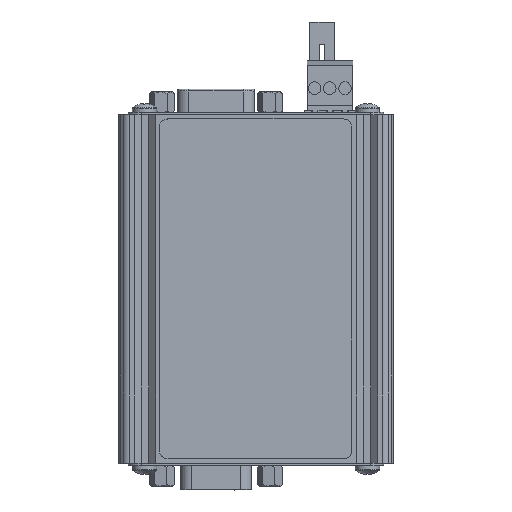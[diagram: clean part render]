
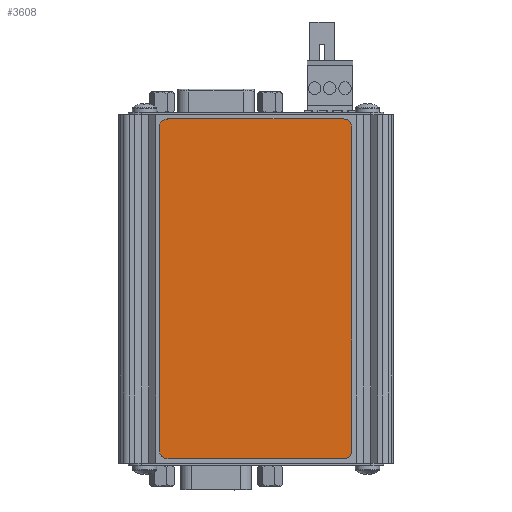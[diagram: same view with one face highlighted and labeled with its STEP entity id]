
A CAD part, top view. The second image highlights one B-rep face of the part: STEP entity #3608.
In plain terms, the highlighted planar face has unit normal (0, 0, 1).
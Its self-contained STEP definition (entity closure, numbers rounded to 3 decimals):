
#464=B_SPLINE_CURVE_WITH_KNOTS('',3,(#59544,#59545,#59546,#59547,#59548,
#59549,#59550,#59551,#59552,#59553,#59554,#59555,#59556,#59557,#59558,#59559,
#59560,#59561,#59562,#59563,#59564,#59565,#59566,#59567,#59568),
 .UNSPECIFIED.,.T.,.F.,(1,3,3,3,3,3,3,3,3,3,1),(-0.125,0.,0.125,0.25,0.375,
0.5,0.625,0.75,0.875,1.,1.125),.UNSPECIFIED.);
#3608=ADVANCED_FACE('',(#7108),#5626,.F.);
#5626=PLANE('',#41749);
#7108=FACE_OUTER_BOUND('',#9273,.T.);
#9273=EDGE_LOOP('',(#13028));
#13028=ORIENTED_EDGE('',*,*,#27821,.T.);
#23654=VERTEX_POINT('',#59569);
#27821=EDGE_CURVE('',#23654,#23654,#464,.T.);
#41749=AXIS2_PLACEMENT_3D('',#59596,#46496,#46497);
#46496=DIRECTION('',(0.,0.,-1.));
#46497=DIRECTION('',(0.,1.,0.));
#59544=CARTESIAN_POINT('',(53.9,77.5,30.175));
#59545=CARTESIAN_POINT('',(53.9,78.605,30.175));
#59546=CARTESIAN_POINT('',(53.005,79.5,30.175));
#59547=CARTESIAN_POINT('',(51.9,79.5,30.175));
#59548=CARTESIAN_POINT('',(51.9,79.5,30.175));
#59549=CARTESIAN_POINT('',(11.4,79.5,30.175));
#59550=CARTESIAN_POINT('',(11.4,79.5,30.175));
#59551=CARTESIAN_POINT('',(10.295,79.5,30.175));
#59552=CARTESIAN_POINT('',(9.4,78.605,30.175));
#59553=CARTESIAN_POINT('',(9.4,77.5,30.175));
#59554=CARTESIAN_POINT('',(9.4,77.5,30.175));
#59555=CARTESIAN_POINT('',(9.4,3.,30.175));
#59556=CARTESIAN_POINT('',(9.4,3.,30.175));
#59557=CARTESIAN_POINT('',(9.4,1.895,30.175));
#59558=CARTESIAN_POINT('',(10.295,1.,30.175));
#59559=CARTESIAN_POINT('',(11.4,1.,30.175));
#59560=CARTESIAN_POINT('',(11.4,1.,30.175));
#59561=CARTESIAN_POINT('',(51.9,1.,30.175));
#59562=CARTESIAN_POINT('',(51.9,1.,30.175));
#59563=CARTESIAN_POINT('',(53.005,1.,30.175));
#59564=CARTESIAN_POINT('',(53.9,1.895,30.175));
#59565=CARTESIAN_POINT('',(53.9,3.,30.175));
#59566=CARTESIAN_POINT('',(53.9,3.,30.175));
#59567=CARTESIAN_POINT('',(53.9,77.5,30.175));
#59568=CARTESIAN_POINT('',(53.9,77.5,30.175));
#59569=CARTESIAN_POINT('',(53.9,77.5,30.175));
#59596=CARTESIAN_POINT('',(9.4,3.,30.175));
